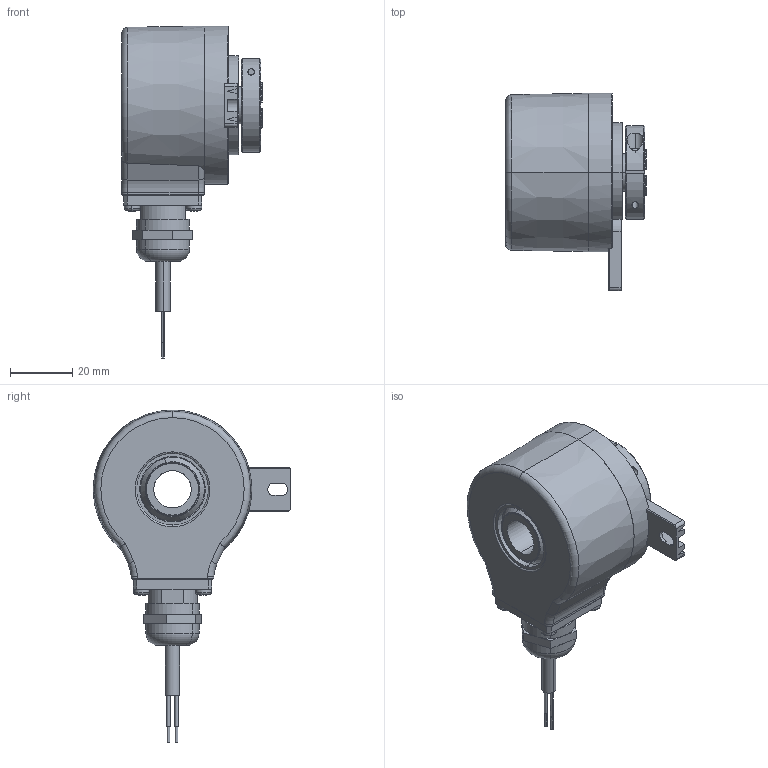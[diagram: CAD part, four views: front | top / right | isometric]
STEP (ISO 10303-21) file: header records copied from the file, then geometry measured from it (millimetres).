
FILE_DESCRIPTION (( 'STEP AP214' ), '1' );
FILE_NAME ('5020.25X1.XXXX.STEP', '2007-06-18T09:04:17', ( 'DanneckerS' ), ( ' ' ), 'SwSTEP 2.0', 'SolidWorks 2007', '' );
FILE_SCHEMA (( 'AUTOMOTIVE_DESIGN' ));
Length unit declared in the file: millimetre
Products named in the file (1): 5020.25X1.XXXX
Bounding box: 45.1 x 63.3 x 106.4 mm (x, y, z)
Surface area: 18343.5 mm2 (no closed solid volume)
Topology: 0 solids, 18 shells, 306 faces, 870 edges, 579 vertices
Faces by surface type: plane 150, cylinder 95, cone 25, torus 24, sphere 8, bspline 4
Entity records: 13694 total; most frequent: CARTESIAN_POINT 2237, DIRECTION 1785, ORIENTED_EDGE 1545, EDGE_CURVE 870, AXIS2_PLACEMENT_3D 675, VERTEX_POINT 579, VECTOR 435, LINE 435
